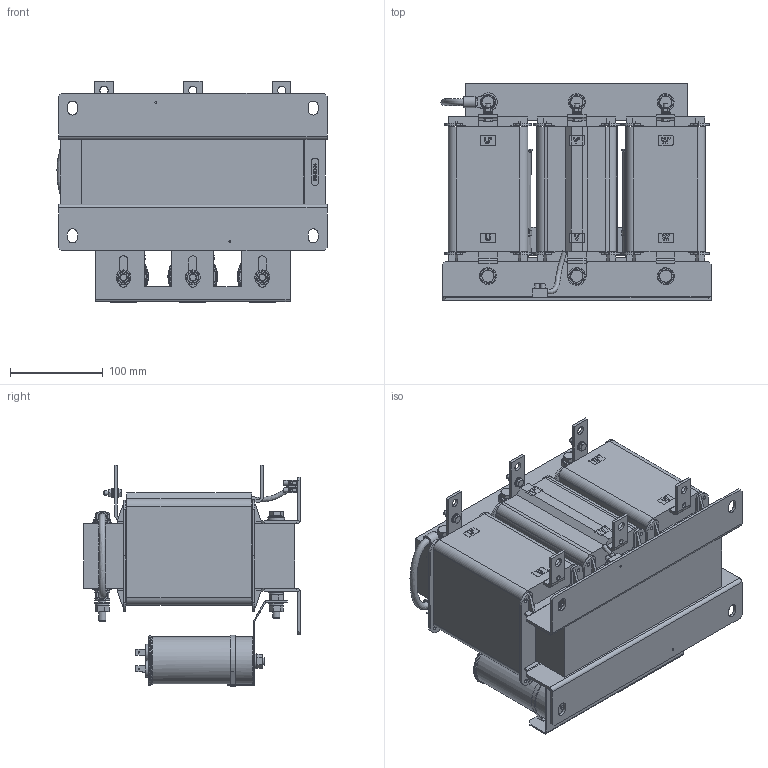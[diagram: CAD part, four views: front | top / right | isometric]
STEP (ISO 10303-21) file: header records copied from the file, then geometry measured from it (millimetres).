
FILE_DESCRIPTION(/* description */ (''),/* implementation_level */ '2;1');
FILE_NAME(/* name */ 'C:\Users\Erika.Jenzer\OneDrive - Schaffner EMV AG\BELLA\STEP FILES BELLA\FN\FN5420-110-99-E0XXT.stp',/* time_stamp */ '2021-07-07T15:14:31+02:00',/* author */ ('erika.jenzer'),/* organization */ (''),/* preprocessor_version */ 'ST-DEVELOPER v18.1',/* originating_system */ 'Autodesk Inventor 2020',/* authorisation */ '');
FILE_SCHEMA (('AUTOMOTIVE_DESIGN { 1 0 10303 214 3 1 1 }'));
Products named in the file (1): FN5420-110-99-E0XXT
Bounding box: 291.77 x 234 x 239.35 mm (x, y, z)
Volume: 6496033.4 mm3; surface area: 627026.2 mm2
Topology: 2 solids, 10 shells, 2782 faces, 7607 edges, 5030 vertices
Faces by surface type: plane 1920, cylinder 544, cone 151, bspline 127, torus 27, sphere 13
Full cylindrical faces by diameter (mm): 0.01 x2, 1 x1, 1.6 x12, 2.013 x2, 2.5 x1, 2.8 x5, 3.4 x4, 4 x24, 5 x6, 5.3 x6, 5.5 x6, 6.9 x3, 7.35 x2, 7.92 x6, 8 x27, 8.2 x7, 8.4 x16, 9 x9, 9.9 x5, 10 x6, 10.5 x3, 11.4 x6, 12.2 x2, 13 x1, 14.64 x6, 16 x17, 17.82 x6, 18 x5, 20 x2, 51 x3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
Entity records: 92594 total; most frequent: CARTESIAN_POINT 20182, ORIENTED_EDGE 15214, DIRECTION 13587, EDGE_CURVE 7607, VERTEX_POINT 5030, LINE 4813, VECTOR 4813, AXIS2_PLACEMENT_3D 4387
